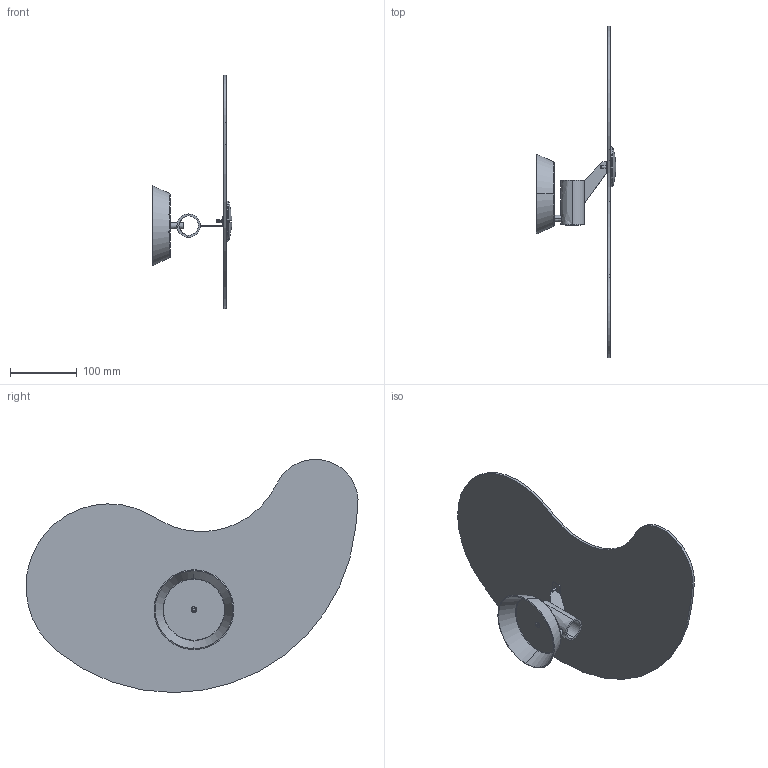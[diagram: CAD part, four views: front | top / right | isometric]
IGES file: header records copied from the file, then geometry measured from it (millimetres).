
Start section: SolidWorks IGES file using analytic representation for surfaces
Global section: file name: X:\stage\BIT\BIT 1.IGS; native system: SolidWorks 2006 by SolidWorks Corporation; preprocessor: SolidWorks 2006 by SolidWorks Corporation; author: stagetec; date: 060919.160610; units: millimetre
Bounding box: 119.45 x 498.15 x 349.91 mm (x, y, z)
Volume: 515390.5 mm3; surface area: 297409.7 mm2
Topology: 5 solids, 5 shells, 86 faces, 190 edges, 120 vertices
Faces by surface type: revolution 55, plane 31
